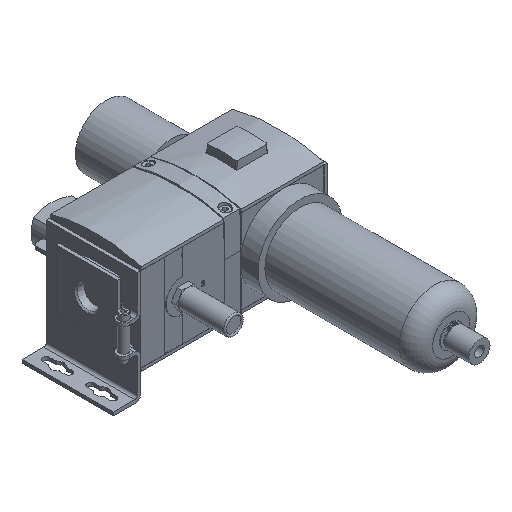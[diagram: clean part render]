
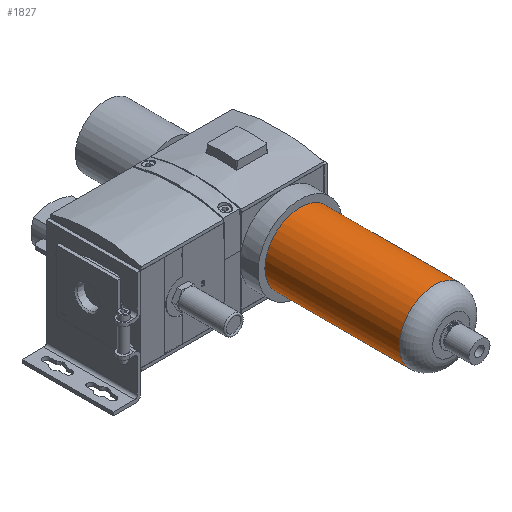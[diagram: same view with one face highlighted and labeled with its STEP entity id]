
A CAD part, isometric view. The second image highlights one B-rep face of the part: STEP entity #1827.
In plain terms, the highlighted cylindrical face has radius 31.75 mm (diameter 63.5 mm), a full revolution.
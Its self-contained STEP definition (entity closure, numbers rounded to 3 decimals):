
#1827 = ADVANCED_FACE( '', ( #4291, #4292 ), #4293, .T. );
#4291 = FACE_OUTER_BOUND( '', #7650, .T. );
#4292 = FACE_OUTER_BOUND( '', #7651, .T. );
#4293 = CYLINDRICAL_SURFACE( '', #7652, 31.75 );
#7650 = EDGE_LOOP( '', ( #12287 ) );
#7651 = EDGE_LOOP( '', ( #12288 ) );
#7652 = AXIS2_PLACEMENT_3D( '', #12289, #12290, #12291 );
#12287 = ORIENTED_EDGE( '', *, *, #20461, .F. );
#12288 = ORIENTED_EDGE( '', *, *, #20462, .T. );
#12289 = CARTESIAN_POINT( '', ( 0., -136.7, 0. ) );
#12290 = DIRECTION( '', ( 0., 1., 0. ) );
#12291 = DIRECTION( '', ( 0., 0., -1. ) );
#20461 = EDGE_CURVE( '', #24797, #24797, #24798, .T. );
#20462 = EDGE_CURVE( '', #24799, #24799, #24800, .T. );
#24797 = VERTEX_POINT( '', #30707 );
#24798 = CIRCLE( '', #30708, 31.75 );
#24799 = VERTEX_POINT( '', #30709 );
#24800 = CIRCLE( '', #30710, 31.75 );
#30707 = CARTESIAN_POINT( '', ( 0., -121.1, -31.75 ) );
#30708 = AXIS2_PLACEMENT_3D( '', #36602, #36603, #36604 );
#30709 = CARTESIAN_POINT( '', ( 0., 0., -31.75 ) );
#30710 = AXIS2_PLACEMENT_3D( '', #36605, #36606, #36607 );
#36602 = CARTESIAN_POINT( '', ( 0., -121.1, 0. ) );
#36603 = DIRECTION( '', ( 0., -1., 0. ) );
#36604 = DIRECTION( '', ( 0., 0., -1. ) );
#36605 = CARTESIAN_POINT( '', ( 0., 0., 0. ) );
#36606 = DIRECTION( '', ( 0., -1., 0. ) );
#36607 = DIRECTION( '', ( 0., 0., -1. ) );
